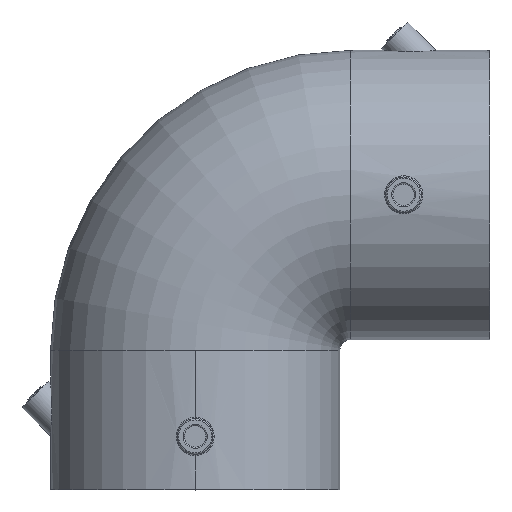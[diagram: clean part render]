
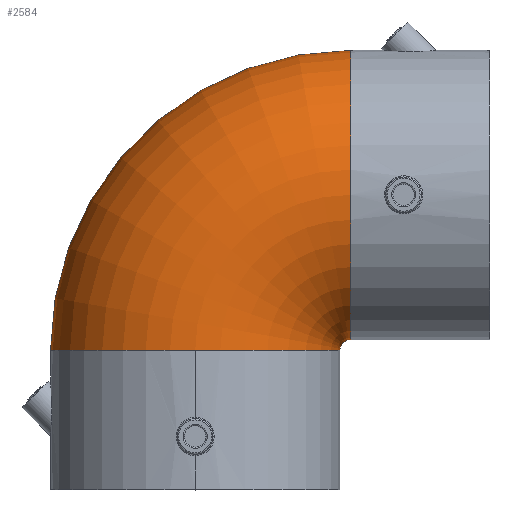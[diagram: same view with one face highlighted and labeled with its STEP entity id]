
A CAD part, top view. The second image highlights one B-rep face of the part: STEP entity #2584.
In plain terms, the highlighted toroidal (fillet/blend) face has major radius 58 mm and minor radius 54 mm.
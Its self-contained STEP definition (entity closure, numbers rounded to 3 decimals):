
#214 = AXIS2_PLACEMENT_3D ( 'NONE', #4809, #4810, #4811 ) ;
#216 = CIRCLE ( 'NONE', #214, 4. ) ;
#835 = CIRCLE ( 'NONE', #844, 54. ) ;
#837 = CIRCLE ( 'NONE', #838, 54. ) ;
#838 = AXIS2_PLACEMENT_3D ( 'NONE', #4597, #4598, #4599 ) ;
#839 = CIRCLE ( 'NONE', #840, 112. ) ;
#840 = AXIS2_PLACEMENT_3D ( 'NONE', #3019, #3020, #3021 ) ;
#841 = CIRCLE ( 'NONE', #842, 54. ) ;
#842 = AXIS2_PLACEMENT_3D ( 'NONE', #3027, #3028, #3029 ) ;
#844 = AXIS2_PLACEMENT_3D ( 'NONE', #3031, #3032, #3033 ) ;
#907 = VERTEX_POINT ( 'NONE', #4438 ) ;
#922 = VERTEX_POINT ( 'NONE', #4452 ) ;
#929 = VERTEX_POINT ( 'NONE', #4459 ) ;
#930 = VERTEX_POINT ( 'NONE', #4460 ) ;
#931 = VERTEX_POINT ( 'NONE', #4461 ) ;
#1483 = DIRECTION ( 'NONE',  ( 0., 0., 1. ) ) ;
#1486 = FACE_OUTER_BOUND ( 'NONE', #3913, .T. ) ;
#1487 = CARTESIAN_POINT ( 'NONE',  ( -20.966, -9.329, -49.443 ) ) ;
#1490 = DIRECTION ( 'NONE',  ( 1., 0., 0. ) ) ;
#2495 = EDGE_CURVE ( 'NONE', #930, #931, #837, .T. ) ;
#2499 = EDGE_CURVE ( 'NONE', #907, #929, #839, .T. ) ;
#2501 = EDGE_CURVE ( 'NONE', #929, #930, #841, .T. ) ;
#2502 = EDGE_CURVE ( 'NONE', #907, #922, #835, .T. ) ;
#2584 = ADVANCED_FACE ( 'NONE', ( #1486 ), #5999, .T. ) ;
#3019 = CARTESIAN_POINT ( 'NONE',  ( -20.966, -9.329, -49.443 ) ) ;
#3020 = DIRECTION ( 'NONE',  ( 0., 0., 1. ) ) ;
#3021 = DIRECTION ( 'NONE',  ( 1., 0., 0. ) ) ;
#3027 = CARTESIAN_POINT ( 'NONE',  ( -78.966, -9.329, -49.443 ) ) ;
#3028 = DIRECTION ( 'NONE',  ( 0., 1., 0. ) ) ;
#3029 = DIRECTION ( 'NONE',  ( 0., 0., -1. ) ) ;
#3031 = CARTESIAN_POINT ( 'NONE',  ( -20.966, 48.671, -49.443 ) ) ;
#3032 = DIRECTION ( 'NONE',  ( 1., 0., 0. ) ) ;
#3033 = DIRECTION ( 'NONE',  ( 0., 0., -1. ) ) ;
#3740 = ORIENTED_EDGE ( 'NONE', *, *, #2499, .T. ) ;
#3744 = ORIENTED_EDGE ( 'NONE', *, *, #2502, .F. ) ;
#3913 = EDGE_LOOP ( 'NONE', ( #3744, #3740, #6959, #6960, #7172 ) ) ;
#4438 = CARTESIAN_POINT ( 'NONE',  ( -20.966, 102.671, -49.443 ) ) ;
#4452 = CARTESIAN_POINT ( 'NONE',  ( -20.966, -5.329, -49.443 ) ) ;
#4459 = CARTESIAN_POINT ( 'NONE',  ( -132.966, -9.329, -49.443 ) ) ;
#4460 = CARTESIAN_POINT ( 'NONE',  ( -78.966, -9.329, 4.557 ) ) ;
#4461 = CARTESIAN_POINT ( 'NONE',  ( -24.966, -9.329, -49.443 ) ) ;
#4597 = CARTESIAN_POINT ( 'NONE',  ( -78.966, -9.329, -49.443 ) ) ;
#4598 = DIRECTION ( 'NONE',  ( 0., 1., 0. ) ) ;
#4599 = DIRECTION ( 'NONE',  ( 0., 0., -1. ) ) ;
#4809 = CARTESIAN_POINT ( 'NONE',  ( -20.966, -9.329, -49.443 ) ) ;
#4810 = DIRECTION ( 'NONE',  ( 0., 0., 1. ) ) ;
#4811 = DIRECTION ( 'NONE',  ( 1., 0., 0. ) ) ;
#5999 = TOROIDAL_SURFACE ( 'NONE', #6003, 58., 54. ) ;
#6003 = AXIS2_PLACEMENT_3D ( 'NONE', #1487, #1483, #1490 ) ;
#6959 = ORIENTED_EDGE ( 'NONE', *, *, #2501, .T. ) ;
#6960 = ORIENTED_EDGE ( 'NONE', *, *, #2495, .T. ) ;
#7172 = ORIENTED_EDGE ( 'NONE', *, *, #7406, .F. ) ;
#7406 = EDGE_CURVE ( 'NONE', #922, #931, #216, .T. ) ;
